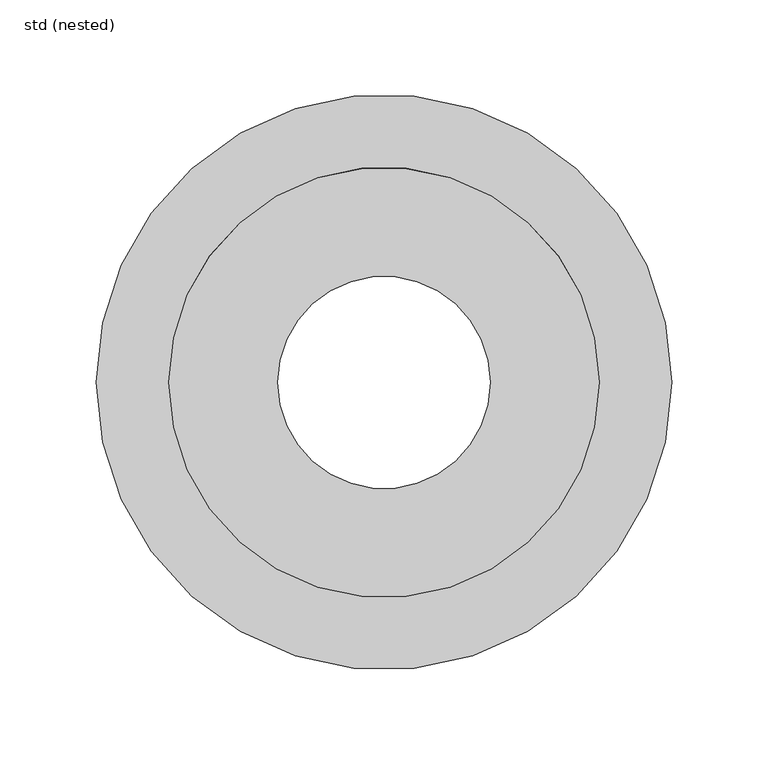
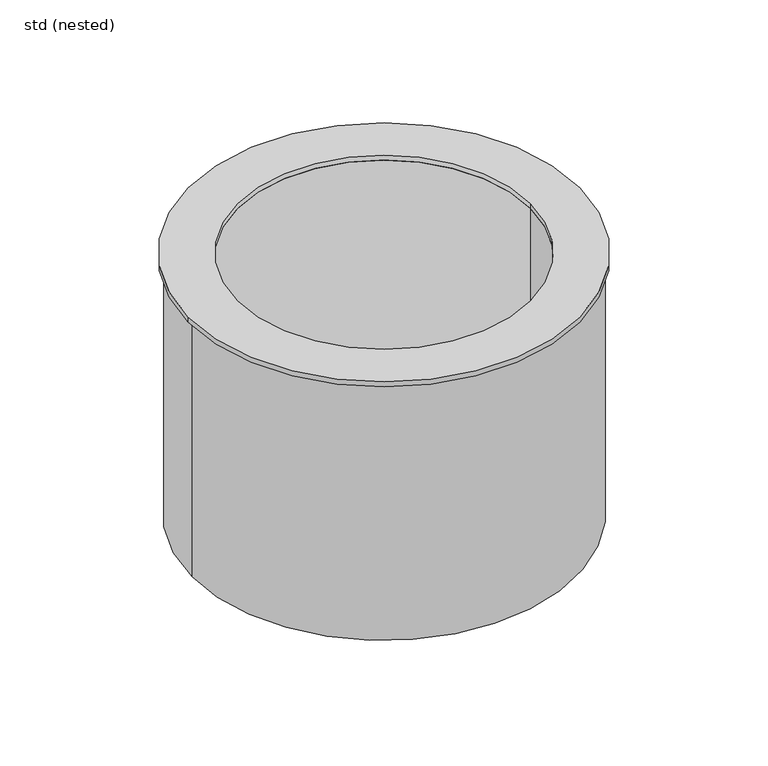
"""IFC4 building model written with IfcOpenShell, lengths in millimetres: damper geometry, ZZZ_do_not_use_PIA_GEN_UN_fire resistant kit for hygienic gullies_ACO : std (nested)."""

from ifc_helpers import new_model, si_unit, point, frame, origin, origin_with_axes, origin_2d, place, context, project, spatial, polyline, circle_curve, trimmed, segment, composite_curve, outline, extrude, source, transform, mapped, element, save
from ifc_brep_helpers import plane_surface, cylinder_surface, revolved_surface, advanced_brep


def std_nested_2a3f0441(model_context):
    return source(origin(), model_context, "Body", "SolidModel", [
        advanced_brep(
        [(-146.0, 0.0, -210.0), (146.0, 0.0, -210.0), (-55.0, 0.0, -210.0), (55.0, 0.0, -210.0), (-146.0, 0.0, -4.0), (146.0, 0.0, -4.0), (-111.5, 0.0, -4.0), (111.5, 0.0, -4.0), (-111.5, 0.0, -206.0), (111.5, 0.0, -206.0), (146.0, 0.0, -206.0), (-146.0, 0.0, -206.0), (-55.0, 0.0, -206.0), (55.0, 0.0, -206.0)],
        [
            (0, 1, circle_curve(frame((0.0, 0.0, -210.0), z_axis=(0.0, 0.0, -1.0), x_axis=(1.0, 0.0, 0.0)), 146.0)),
            (1, 0, circle_curve(frame((0.0, 0.0, -210.0), z_axis=(0.0, 0.0, -1.0), x_axis=(1.0, 0.0, 0.0)), 146.0)),
            (2, 3, circle_curve(frame((0.0, 0.0, -210.0), z_axis=(0.0, 0.0, 1.0), x_axis=(1.0, 0.0, 0.0)), 55.0)),
            (3, 2, circle_curve(frame((0.0, 0.0, -210.0), z_axis=(0.0, 0.0, 1.0), x_axis=(1.0, 0.0, 0.0)), 55.0)),
            (4, 5, circle_curve(frame((0.0, 0.0, -4.0), z_axis=(0.0, 0.0, 1.0), x_axis=(1.0, 0.0, 0.0)), 146.0)),
            (5, 4, circle_curve(frame((0.0, 0.0, -4.0), z_axis=(0.0, 0.0, 1.0), x_axis=(1.0, 0.0, 0.0)), 146.0)),
            (6, 7, circle_curve(frame((0.0, 0.0, -4.0), z_axis=(0.0, 0.0, -1.0), x_axis=(1.0, 0.0, 0.0)), 111.5)),
            (7, 6, circle_curve(frame((0.0, 0.0, -4.0), z_axis=(0.0, 0.0, -1.0), x_axis=(1.0, 0.0, 0.0)), 111.5)),
            (6, 8),
            (8, 9, circle_curve(frame((0.0, 0.0, -206.0), z_axis=(0.0, 0.0, -1.0), x_axis=(1.0, 0.0, 0.0)), 111.5)),
            (9, 7),
            (9, 8, circle_curve(frame((0.0, 0.0, -206.0), z_axis=(0.0, 0.0, -1.0), x_axis=(1.0, 0.0, 0.0)), 111.5)),
            (1, 10),
            (10, 5),
            (4, 11),
            (11, 0),
            (12, 13, circle_curve(frame((0.0, 0.0, -206.0), z_axis=(0.0, 0.0, -1.0), x_axis=(1.0, 0.0, 0.0)), 55.0)),
            (13, 12, circle_curve(frame((0.0, 0.0, -206.0), z_axis=(0.0, 0.0, -1.0), x_axis=(1.0, 0.0, 0.0)), 55.0)),
            (3, 13),
            (12, 2),
        ],
        [
            plane_surface(frame((111.5, 0.0, -210.0), z_axis=(0.0, 0.0, -1.0), x_axis=(0.0, 1.0, 0.0))),
            plane_surface(frame((111.5, 0.0, -4.0), z_axis=(0.0, 0.0, 1.0), x_axis=(0.0, -1.0, 0.0))),
            revolved_surface(polyline([(111.5, 0.0, -206.0), (111.5, 0.0, -4.0)]), (0.0, 0.0, -210.0), (0.0, 0.0, -1.0)),
            cylinder_surface(origin_with_axes(), 146.0),
            plane_surface(frame((146.0, 0.0, -206.0), z_axis=(0.0, 0.0, 1.0), x_axis=(0.0, 1.0, 0.0))),
            revolved_surface(polyline([(55.0, 0.0, -210.0), (55.0, 0.0, -206.0)]), (0.0, 0.0, 0.0), (0.0, 0.0, -1.0)),
        ],
        [
            (0, [[1, 2], [3, 4]]),
            (1, [[5, 6], [7, 8]]),
            (2, [[-7, 9, 10, 11]]),
            (2, [[-8, -11, 12, -9]]),
            (3, [[-2, 13, 14, -5, 15, 16]]),
            (3, [[-1, -16, -15, -6, -14, -13]]),
            (4, [[-10, -12], [17, 18]]),
            (5, [[-4, 19, -17, 20]]),
            (5, [[-3, -20, -18, -19]]),
        ],
    ),
        extrude(outline(composite_curve([segment(trimmed(circle_curve(origin_2d(), 149.0), [point((-149.0, 0.0))], [point((149.0, 0.0))], False, "CARTESIAN"), True, "CONTINUOUS"), segment(trimmed(circle_curve(origin_2d(), 149.0), [point((149.0, 0.0))], [point((-149.0, 0.0))], False, "CARTESIAN"), True, "CONTINUOUS")], self_intersect=False), holes=[composite_curve([segment(trimmed(circle_curve(origin_2d(), 111.5), [point((-111.5, 0.0))], [point((111.5, 0.0))], True, "CARTESIAN"), True, "CONTINUOUS"), segment(trimmed(circle_curve(origin_2d(), 111.5), [point((111.5, 0.0))], [point((-111.5, 0.0))], True, "CARTESIAN"), True, "CONTINUOUS")], self_intersect=False)]), frame((0.0, 0.0, -4.0), z_axis=(0.0, 0.0, 1.0), x_axis=(1.0, 0.0, 0.0)), (0.0, 0.0, 1.0), 4.0),
    ])


if __name__ == "__main__":
    model = new_model("IFC4")
    model_context = context("Model", 3, world=origin())
    ifc_project = project(units=[si_unit("LENGTHUNIT", "METRE", prefix="MILLI")], contexts=[model_context])
    site = spatial("IfcSite", under=ifc_project)
    building = spatial("IfcBuilding", under=site)
    placement = place(None, origin())
    std_nested_shape = std_nested_2a3f0441(model_context)
    element("IfcDamper", 1, ObjectType="ZZZ_do_not_use_PIA_GEN_UN_fire resistant kit for hygienic gullies_ACO : std (nested)", at=placement, inside=building, context=model_context, shape_type="MappedRepresentation", body=[
        mapped(std_nested_shape, transform((0.0, 0.0, 0.0), x_axis=(1.0, 0.0, 0.0), y_axis=(0.0, 1.0, 0.0), z_axis=(0.0, 0.0, 1.0))),
    ])
    save(model, "model.ifc")
